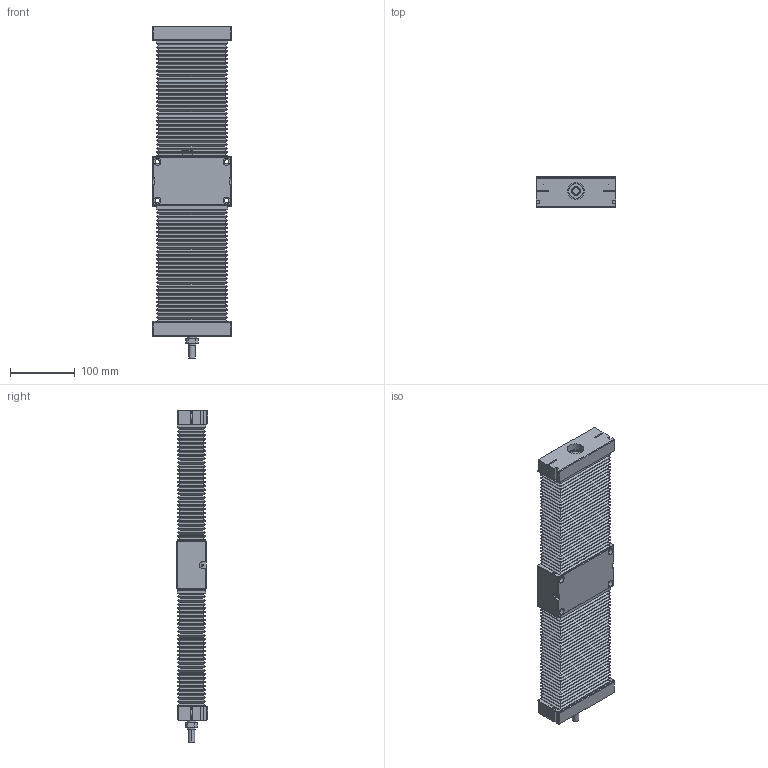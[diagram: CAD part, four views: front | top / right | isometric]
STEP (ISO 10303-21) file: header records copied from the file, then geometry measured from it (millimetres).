
FILE_DESCRIPTION (( 'STEP AP214' ), '1' );
FILE_NAME ('TKC1610B-200H0C-Ä£×é.step', '2025-08-25T08:37:41', ( '' ), ( '' ), 'SwSTEP 2.0', 'SolidWorks 2024', '' );
FILE_SCHEMA (( 'AUTOMOTIVE_DESIGN' ));
Length unit declared in the file: millimetre
Products named in the file (4): TKC16-200-03; TKC16-200-01; TKC1610B-200H0C-模组; TKC16-02
Assembly tree (4 placements, depth 2):
  TKC1610B-200H0C-模组
    TKC16-02
    TKC16-200-01
    TKC16-200-03  x2
Bounding box: 122 x 48 x 512.5 mm (x, y, z)
Volume: 1537291.3 mm3; surface area: 498304.3 mm2
Topology: 10 solids, 14 shells, 1424 faces, 3205 edges, 1848 vertices
Faces by surface type: plane 1016, cylinder 333, cone 36, torus 28, bspline 11
Entity records: 37955 total; most frequent: CARTESIAN_POINT 14170, ORIENTED_EDGE 4802, DIRECTION 4708, EDGE_CURVE 2401, VECTOR 1636, LINE 1636, AXIS2_PLACEMENT_3D 1536, VERTEX_POINT 1452
